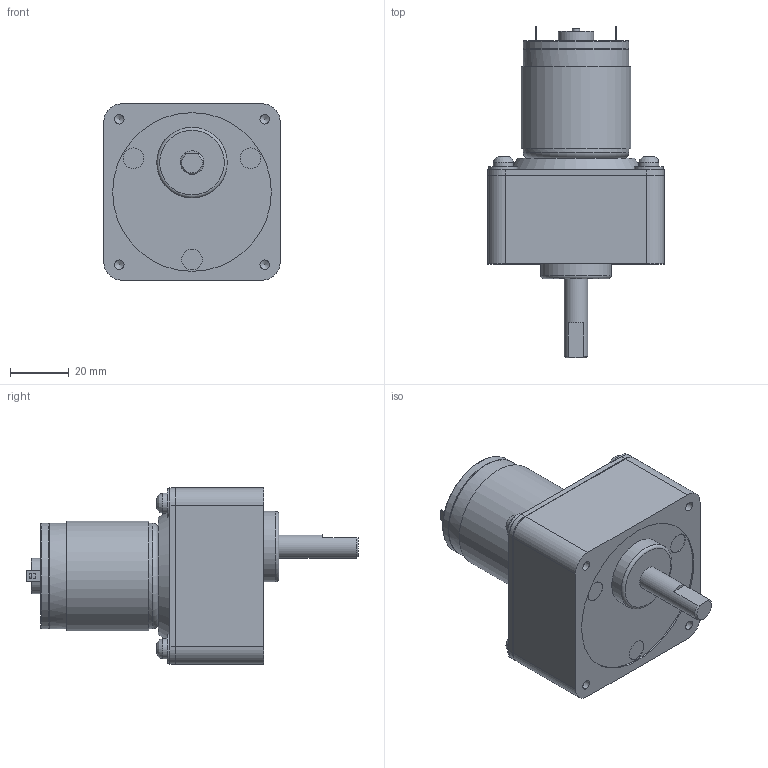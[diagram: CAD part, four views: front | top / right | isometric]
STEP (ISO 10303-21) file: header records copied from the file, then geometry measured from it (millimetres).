
FILE_DESCRIPTION((''),'2;1');
FILE_NAME('C:\Documents and Settings\SSEGAWA\デスクトップ\TP-3640B-CM-2.STP','2013-07-18T17:48:20',('SSEGAWA'),(''),'Autodesk Inventor 2010','Autodesk Inventor 2010','');
FILE_SCHEMA(('CONFIG_CONTROL_DESIGN'));
Length unit declared in the file: millimetre
Products named in the file (1): tp_3640bce_cm_2_Shrinkwrap_1
Bounding box: 60 x 113 x 60 mm (x, y, z)
Volume: 166238.9 mm3; surface area: 22182.4 mm2
Topology: 1 solids, 3 shells, 131 faces, 290 edges, 191 vertices
Faces by surface type: plane 70, cylinder 34, bspline 20, torus 4, cone 3
Full cylindrical faces by diameter (mm): 2.5 x1, 4 x1, 4.5 x1, 6.8 x4, 7 x3, 8 x1, 9.8 x4, 12 x1, 24 x1, 35.6 x1, 36 x2, 54 x1
Entity records: 3732 total; most frequent: CARTESIAN_POINT 931, DIRECTION 546, ORIENTED_EDGE 458, EDGE_CURVE 229, AXIS2_PLACEMENT_3D 207, EDGE_LOOP 205, VERTEX_POINT 174, VECTOR 132
